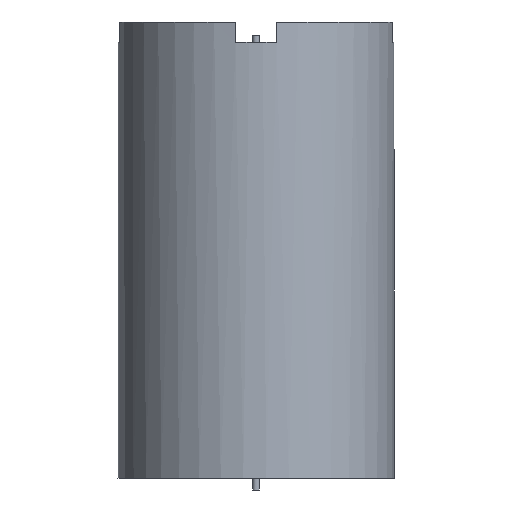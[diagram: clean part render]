
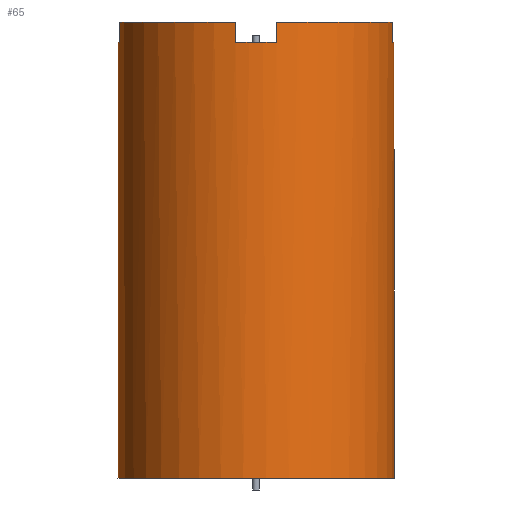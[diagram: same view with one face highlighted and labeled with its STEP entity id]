
A CAD part, front view. The second image highlights one B-rep face of the part: STEP entity #65.
In plain terms, the highlighted cylindrical face has radius 202.5 mm (diameter 405 mm), a full revolution.
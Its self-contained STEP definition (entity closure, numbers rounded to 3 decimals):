
#65 = ADVANCED_FACE( '', ( #156, #157 ), #158, .T. );
#156 = FACE_OUTER_BOUND( '', #277, .T. );
#157 = FACE_OUTER_BOUND( '', #278, .T. );
#158 = CYLINDRICAL_SURFACE( '', #279, 202.5 );
#277 = EDGE_LOOP( '', ( #404, #405, #406, #407, #408, #409, #410, #411, #412, #413, #414, #415, #416, #417, #418, #419 ) );
#278 = EDGE_LOOP( '', ( #420 ) );
#279 = AXIS2_PLACEMENT_3D( '', #421, #422, #423 );
#404 = ORIENTED_EDGE( '', *, *, #715, .F. );
#405 = ORIENTED_EDGE( '', *, *, #704, .T. );
#406 = ORIENTED_EDGE( '', *, *, #716, .F. );
#407 = ORIENTED_EDGE( '', *, *, #717, .F. );
#408 = ORIENTED_EDGE( '', *, *, #718, .F. );
#409 = ORIENTED_EDGE( '', *, *, #719, .T. );
#410 = ORIENTED_EDGE( '', *, *, #720, .F. );
#411 = ORIENTED_EDGE( '', *, *, #721, .F. );
#412 = ORIENTED_EDGE( '', *, *, #722, .F. );
#413 = ORIENTED_EDGE( '', *, *, #712, .T. );
#414 = ORIENTED_EDGE( '', *, *, #723, .F. );
#415 = ORIENTED_EDGE( '', *, *, #724, .F. );
#416 = ORIENTED_EDGE( '', *, *, #725, .F. );
#417 = ORIENTED_EDGE( '', *, *, #726, .T. );
#418 = ORIENTED_EDGE( '', *, *, #727, .F. );
#419 = ORIENTED_EDGE( '', *, *, #728, .F. );
#420 = ORIENTED_EDGE( '', *, *, #729, .T. );
#421 = CARTESIAN_POINT( '', ( 0., 0., 669. ) );
#422 = DIRECTION( '', ( 0., 0., 1. ) );
#423 = DIRECTION( '', ( -1., 0., 0. ) );
#704 = EDGE_CURVE( '', #832, #830, #833, .T. );
#712 = EDGE_CURVE( '', #846, #844, #847, .T. );
#715 = EDGE_CURVE( '', #832, #850, #851, .T. );
#716 = EDGE_CURVE( '', #852, #830, #853, .T. );
#717 = EDGE_CURVE( '', #854, #852, #855, .T. );
#718 = EDGE_CURVE( '', #856, #854, #857, .T. );
#719 = EDGE_CURVE( '', #856, #858, #859, .T. );
#720 = EDGE_CURVE( '', #860, #858, #861, .T. );
#721 = EDGE_CURVE( '', #862, #860, #863, .T. );
#722 = EDGE_CURVE( '', #846, #862, #864, .T. );
#723 = EDGE_CURVE( '', #865, #844, #866, .T. );
#724 = EDGE_CURVE( '', #867, #865, #868, .T. );
#725 = EDGE_CURVE( '', #869, #867, #870, .T. );
#726 = EDGE_CURVE( '', #869, #871, #872, .T. );
#727 = EDGE_CURVE( '', #873, #871, #874, .T. );
#728 = EDGE_CURVE( '', #850, #873, #875, .T. );
#729 = EDGE_CURVE( '', #876, #876, #877, .T. );
#830 = VERTEX_POINT( '', #1018 );
#832 = VERTEX_POINT( '', #1021 );
#833 = LINE( '', #1022, #1023 );
#844 = VERTEX_POINT( '', #1036 );
#846 = VERTEX_POINT( '', #1039 );
#847 = LINE( '', #1040, #1041 );
#850 = VERTEX_POINT( '', #1045 );
#851 = CIRCLE( '', #1046, 202.5 );
#852 = VERTEX_POINT( '', #1047 );
#853 = CIRCLE( '', #1048, 202.5 );
#854 = VERTEX_POINT( '', #1049 );
#855 = LINE( '', #1050, #1051 );
#856 = VERTEX_POINT( '', #1052 );
#857 = CIRCLE( '', #1053, 202.5 );
#858 = VERTEX_POINT( '', #1054 );
#859 = LINE( '', #1055, #1056 );
#860 = VERTEX_POINT( '', #1057 );
#861 = CIRCLE( '', #1058, 202.5 );
#862 = VERTEX_POINT( '', #1059 );
#863 = LINE( '', #1060, #1061 );
#864 = CIRCLE( '', #1062, 202.5 );
#865 = VERTEX_POINT( '', #1063 );
#866 = CIRCLE( '', #1064, 202.5 );
#867 = VERTEX_POINT( '', #1065 );
#868 = LINE( '', #1066, #1067 );
#869 = VERTEX_POINT( '', #1068 );
#870 = CIRCLE( '', #1069, 202.5 );
#871 = VERTEX_POINT( '', #1070 );
#872 = LINE( '', #1071, #1072 );
#873 = VERTEX_POINT( '', #1073 );
#874 = CIRCLE( '', #1074, 202.5 );
#875 = LINE( '', #1075, #1076 );
#876 = VERTEX_POINT( '', #1077 );
#877 = CIRCLE( '', #1078, 202.5 );
#1018 = CARTESIAN_POINT( '', ( 30., 200.265, 669. ) );
#1021 = CARTESIAN_POINT( '', ( 30., 200.265, 639. ) );
#1022 = CARTESIAN_POINT( '', ( 30., 200.265, 639. ) );
#1023 = VECTOR( '', #1266, 1000. );
#1036 = CARTESIAN_POINT( '', ( -30., -200.265, 669. ) );
#1039 = CARTESIAN_POINT( '', ( -30., -200.265, 639. ) );
#1040 = CARTESIAN_POINT( '', ( -30., -200.265, 639. ) );
#1041 = VECTOR( '', #1276, 1000. );
#1045 = CARTESIAN_POINT( '', ( -30., 200.265, 639. ) );
#1046 = AXIS2_PLACEMENT_3D( '', #1278, #1279, #1280 );
#1047 = CARTESIAN_POINT( '', ( 200.265, 30., 669. ) );
#1048 = AXIS2_PLACEMENT_3D( '', #1281, #1282, #1283 );
#1049 = CARTESIAN_POINT( '', ( 200.265, 30., 639. ) );
#1050 = CARTESIAN_POINT( '', ( 200.265, 30., 639. ) );
#1051 = VECTOR( '', #1284, 1000. );
#1052 = CARTESIAN_POINT( '', ( 200.265, -30., 639. ) );
#1053 = AXIS2_PLACEMENT_3D( '', #1285, #1286, #1287 );
#1054 = CARTESIAN_POINT( '', ( 200.265, -30., 669. ) );
#1055 = CARTESIAN_POINT( '', ( 200.265, -30., 639. ) );
#1056 = VECTOR( '', #1288, 1000. );
#1057 = CARTESIAN_POINT( '', ( 30., -200.265, 669. ) );
#1058 = AXIS2_PLACEMENT_3D( '', #1289, #1290, #1291 );
#1059 = CARTESIAN_POINT( '', ( 30., -200.265, 639. ) );
#1060 = CARTESIAN_POINT( '', ( 30., -200.265, 639. ) );
#1061 = VECTOR( '', #1292, 1000. );
#1062 = AXIS2_PLACEMENT_3D( '', #1293, #1294, #1295 );
#1063 = CARTESIAN_POINT( '', ( -200.265, -30., 669. ) );
#1064 = AXIS2_PLACEMENT_3D( '', #1296, #1297, #1298 );
#1065 = CARTESIAN_POINT( '', ( -200.265, -30., 639. ) );
#1066 = CARTESIAN_POINT( '', ( -200.265, -30., 639. ) );
#1067 = VECTOR( '', #1299, 1000. );
#1068 = CARTESIAN_POINT( '', ( -200.265, 30., 639. ) );
#1069 = AXIS2_PLACEMENT_3D( '', #1300, #1301, #1302 );
#1070 = CARTESIAN_POINT( '', ( -200.265, 30., 669. ) );
#1071 = CARTESIAN_POINT( '', ( -200.265, 30., 639. ) );
#1072 = VECTOR( '', #1303, 1000. );
#1073 = CARTESIAN_POINT( '', ( -30., 200.265, 669. ) );
#1074 = AXIS2_PLACEMENT_3D( '', #1304, #1305, #1306 );
#1075 = CARTESIAN_POINT( '', ( -30., 200.265, 639. ) );
#1076 = VECTOR( '', #1307, 1000. );
#1077 = CARTESIAN_POINT( '', ( 202.5, 0., 0. ) );
#1078 = AXIS2_PLACEMENT_3D( '', #1308, #1309, #1310 );
#1266 = DIRECTION( '', ( 0., 0., 1. ) );
#1276 = DIRECTION( '', ( 0., 0., 1. ) );
#1278 = CARTESIAN_POINT( '', ( 0., 0., 639. ) );
#1279 = DIRECTION( '', ( 0., 0., 1. ) );
#1280 = DIRECTION( '', ( 1., 0., 0. ) );
#1281 = CARTESIAN_POINT( '', ( 0., 0., 669. ) );
#1282 = DIRECTION( '', ( 0., 0., 1. ) );
#1283 = DIRECTION( '', ( 1., 0., 0. ) );
#1284 = DIRECTION( '', ( 0., 0., 1. ) );
#1285 = CARTESIAN_POINT( '', ( 0., 0., 639. ) );
#1286 = DIRECTION( '', ( 0., 0., 1. ) );
#1287 = DIRECTION( '', ( 1., 0., 0. ) );
#1288 = DIRECTION( '', ( 0., 0., 1. ) );
#1289 = CARTESIAN_POINT( '', ( 0., 0., 669. ) );
#1290 = DIRECTION( '', ( 0., 0., 1. ) );
#1291 = DIRECTION( '', ( 1., 0., 0. ) );
#1292 = DIRECTION( '', ( 0., 0., 1. ) );
#1293 = CARTESIAN_POINT( '', ( 0., 0., 639. ) );
#1294 = DIRECTION( '', ( 0., 0., 1. ) );
#1295 = DIRECTION( '', ( 1., 0., 0. ) );
#1296 = CARTESIAN_POINT( '', ( 0., 0., 669. ) );
#1297 = DIRECTION( '', ( 0., 0., 1. ) );
#1298 = DIRECTION( '', ( 1., 0., 0. ) );
#1299 = DIRECTION( '', ( 0., 0., 1. ) );
#1300 = CARTESIAN_POINT( '', ( 0., 0., 639. ) );
#1301 = DIRECTION( '', ( 0., 0., 1. ) );
#1302 = DIRECTION( '', ( 1., 0., 0. ) );
#1303 = DIRECTION( '', ( 0., 0., 1. ) );
#1304 = CARTESIAN_POINT( '', ( 0., 0., 669. ) );
#1305 = DIRECTION( '', ( 0., 0., 1. ) );
#1306 = DIRECTION( '', ( 1., 0., 0. ) );
#1307 = DIRECTION( '', ( 0., 0., 1. ) );
#1308 = CARTESIAN_POINT( '', ( 0., 0., 0. ) );
#1309 = DIRECTION( '', ( 0., 0., 1. ) );
#1310 = DIRECTION( '', ( 1., 0., 0. ) );
